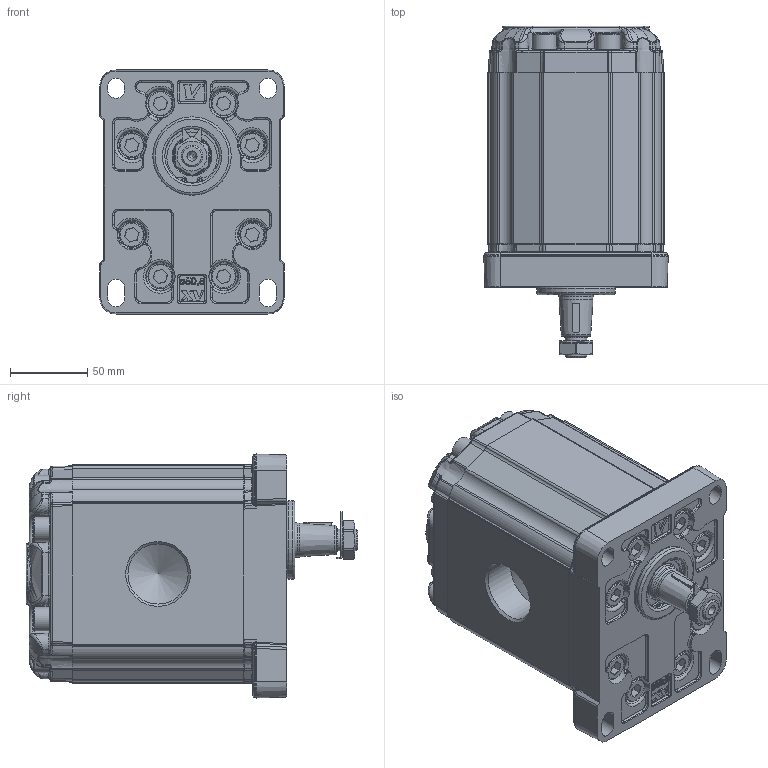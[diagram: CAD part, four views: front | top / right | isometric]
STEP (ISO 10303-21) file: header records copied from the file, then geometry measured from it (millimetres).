
FILE_DESCRIPTION( ( 'Unknown' ), '1' );
FILE_NAME( 'P:/montaggio_easy/output/STP/X3M8601AFFF.stp', 'Unknown', ( 'Unknown' ), ( 'Unknown' ), 'PSStep 14.0', 'Unknown', ' ' );
FILE_SCHEMA( ( 'AUTOMOTIVE_DESIGN { 1 0 10303 214 1 1 1 1 }' ) );
Length unit declared in the file: millimetre
Products named in the file (5): Assem1; X3M01; 3A; X3FFH111; XM301-F
Bounding box: 119.47 x 215 x 158.07 mm (x, y, z)
Surface area: 428876.6 mm2
Topology: 8 solids, 42 shells, 5768 faces, 14976 edges, 9508 vertices
Faces by surface type: bspline 2190, plane 1808, cylinder 1236, torus 228, cone 148, extrusion 96, sphere 56, revolution 4, offset 2
Full cylindrical faces by diameter (mm): 2 x4, 10 x32, 14 x4, 15.8 x32, 16 x32, 22 x2, 24.98 x2, 25.5 x2, 26.8 x2, 29.425 x2, 31.42 x2, 33.304 x2, 34.7 x2, 35 x4, 35.2 x2, 37 x2, 38.952 x4, 50.8 x2
Entity records: 138218 total; most frequent: CARTESIAN_POINT 58512, ORIENTED_EDGE 14494, EDGE_CURVE 7247, DIRECTION 7167, VERTEX_POINT 4687, B_SPLINE_CURVE_WITH_KNOTS 3871, EDGE_LOOP 3178, FACE_OUTER_BOUND 2993
